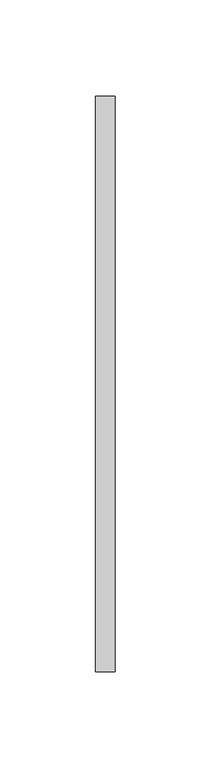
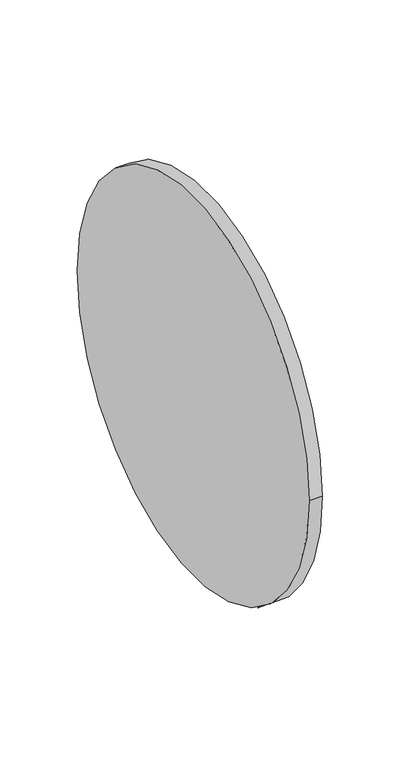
"""IFC4 building model written with IfcOpenShell, lengths in millimetres: duct fitting geometry, BL_ЗаглушкаВоздуховодов_Круглая : Ниппельное соединение."""

from ifc_helpers import new_model, si_unit, point, frame, origin, origin_2d, place, context, project, spatial, circle_curve, trimmed, segment, composite_curve, outline, extrude, source, transform, mapped, element, save


def duct_fitting_ac770645(model_context):
    return source(origin(), model_context, "Body", "SweptSolid", [
        extrude(outline(composite_curve([segment(trimmed(circle_curve(origin_2d(), 150.0), [point((-150.0, 0.0))], [point((150.0, 0.0))], False, "CARTESIAN"), True, "CONTINUOUS"), segment(trimmed(circle_curve(origin_2d(), 150.0), [point((150.0, 0.0))], [point((-150.0, 0.0))], False, "CARTESIAN"), True, "CONTINUOUS")], self_intersect=False)), frame((0.0, 0.0, 0.0), z_axis=(1.0, 0.0, 0.0), x_axis=(0.0, 1.0, 0.0)), (0.0, 0.0, 1.0), 10.0),
    ])


if __name__ == "__main__":
    model = new_model("IFC4")
    model_context = context("Model", 3, world=origin())
    ifc_project = project(units=[si_unit("LENGTHUNIT", "METRE", prefix="MILLI")], contexts=[model_context])
    site = spatial("IfcSite", under=ifc_project)
    building = spatial("IfcBuilding", under=site)
    placement = place(None, origin())
    duct_fitting_shape = duct_fitting_ac770645(model_context)
    element("IfcDuctFitting", 1, ObjectType="BL_ЗаглушкаВоздуховодов_Круглая : Ниппельное соединение", at=placement, inside=building, context=model_context, shape_type="MappedRepresentation", body=[
        mapped(duct_fitting_shape, transform((0.0, 0.0, 0.0), x_axis=(1.0, 0.0, 0.0), y_axis=(0.0, 1.0, 0.0), z_axis=(0.0, 0.0, 1.0))),
    ])
    save(model, "model.ifc")
